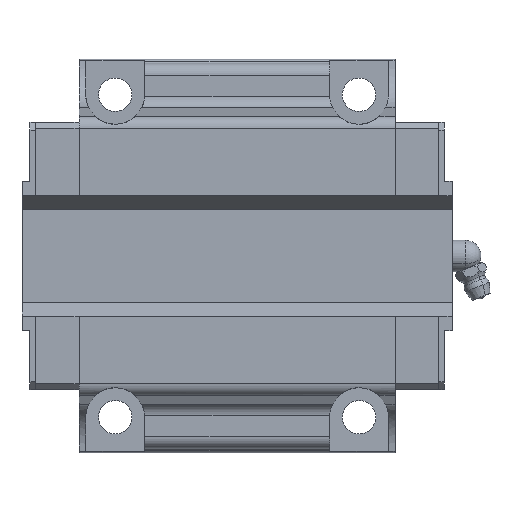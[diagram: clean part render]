
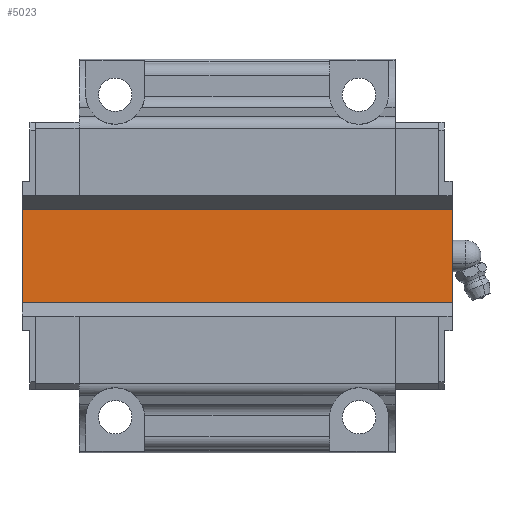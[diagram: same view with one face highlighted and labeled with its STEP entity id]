
A CAD part, front view. The second image highlights one B-rep face of the part: STEP entity #5023.
In plain terms, the highlighted planar face has unit normal (0, -1, 0).
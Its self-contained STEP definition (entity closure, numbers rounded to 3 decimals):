
#2341=CARTESIAN_POINT('Vertex',(54.7,21.5,13.11)) ;
#2344=CARTESIAN_POINT('Line Origine',(54.7,21.5,0.)) ;
#2348=CARTESIAN_POINT('Vertex',(54.7,21.5,-13.11)) ;
#4768=CARTESIAN_POINT('Vertex',(-54.7,21.5,-13.11)) ;
#4771=CARTESIAN_POINT('Line Origine',(-54.7,21.5,0.)) ;
#4775=CARTESIAN_POINT('Vertex',(-54.7,21.5,13.11)) ;
#4995=CARTESIAN_POINT('Line Origine',(0.,21.5,13.11)) ;
#5007=CARTESIAN_POINT('Axis2P3D Location',(0.,21.5,-13.11)) ;
#5012=CARTESIAN_POINT('Line Origine',(0.,21.5,-13.11)) ;
#2345=DIRECTION('Vector Direction',(0.,0.,1.)) ;
#4772=DIRECTION('Vector Direction',(0.,0.,1.)) ;
#4996=DIRECTION('Vector Direction',(1.,0.,0.)) ;
#5008=DIRECTION('Axis2P3D Direction',(0.,-1.,0.)) ;
#5009=DIRECTION('Axis2P3D XDirection',(0.,0.,1.)) ;
#5013=DIRECTION('Vector Direction',(1.,0.,0.)) ;
#5010=AXIS2_PLACEMENT_3D('Plane Axis2P3D',#5007,#5008,#5009) ;
#5018=ORIENTED_EDGE('',*,*,#2350,.T.) ;
#5019=ORIENTED_EDGE('',*,*,#4999,.F.) ;
#5020=ORIENTED_EDGE('',*,*,#4777,.F.) ;
#5021=ORIENTED_EDGE('',*,*,#5016,.T.) ;
#2346=VECTOR('Line Direction',#2345,1.) ;
#4773=VECTOR('Line Direction',#4772,1.) ;
#4997=VECTOR('Line Direction',#4996,1.) ;
#5014=VECTOR('Line Direction',#5013,1.) ;
#5023=ADVANCED_FACE('HSV35C_BLOCK',(#5022),#5011,.T.) ;
#2350=EDGE_CURVE('',#2349,#2342,#2347,.T.) ;
#4777=EDGE_CURVE('',#4769,#4776,#4774,.T.) ;
#4999=EDGE_CURVE('',#4776,#2342,#4998,.T.) ;
#5016=EDGE_CURVE('',#4769,#2349,#5015,.T.) ;
#5017=EDGE_LOOP('',(#5018,#5019,#5020,#5021)) ;
#5022=FACE_OUTER_BOUND('',#5017,.T.) ;
#2347=LINE('Line',#2344,#2346) ;
#4774=LINE('Line',#4771,#4773) ;
#4998=LINE('Line',#4995,#4997) ;
#5015=LINE('Line',#5012,#5014) ;
#5011=PLANE('',#5010) ;
#2342=VERTEX_POINT('',#2341) ;
#2349=VERTEX_POINT('',#2348) ;
#4769=VERTEX_POINT('',#4768) ;
#4776=VERTEX_POINT('',#4775) ;
